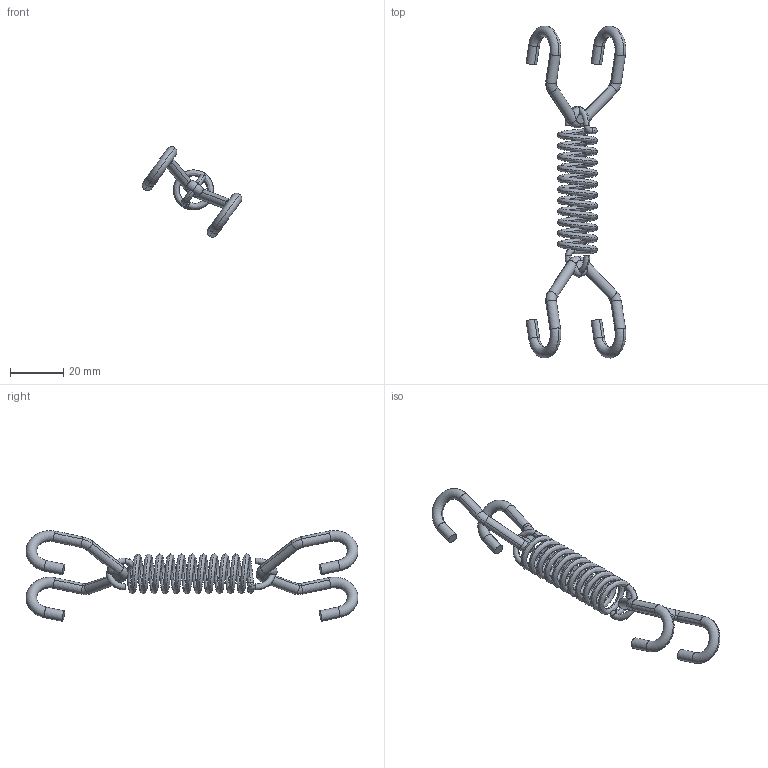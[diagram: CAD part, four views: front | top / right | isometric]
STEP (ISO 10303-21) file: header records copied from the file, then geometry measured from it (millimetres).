
FILE_DESCRIPTION (( 'STEP AP214' ), '1' );
FILE_NAME ('IRB365_1.5-1300_OmniCore_rev00_SPRING_UNIT_2_CAD.step', '2025-09-09T11:52:26', ( '' ), ( '' ), 'SwSTEP 2.0', 'SolidWorks 2024', '' );
FILE_SCHEMA (( 'AUTOMOTIVE_DESIGN' ));
Length unit declared in the file: millimetre
Products named in the file (1): IRB365_1.5-1300_OmniCore_rev00_SPRING_UNIT_2_CAD
Bounding box: 37.41 x 124.54 x 34.08 mm (x, y, z)
Volume: 5107.5 mm3; surface area: 6623.7 mm2
Topology: 1 solids, 1 shells, 74 faces, 182 edges, 110 vertices
Faces by surface type: torus 38, cylinder 24, plane 10, bspline 2
Entity records: 5106 total; most frequent: CARTESIAN_POINT 2490, DIRECTION 422, ORIENTED_EDGE 364, AXIS2_PLACEMENT_3D 199, EDGE_CURVE 182, CIRCLE 126, VERTEX_POINT 110, UNCERTAINTY_MEASURE_WITH_UNIT 76
